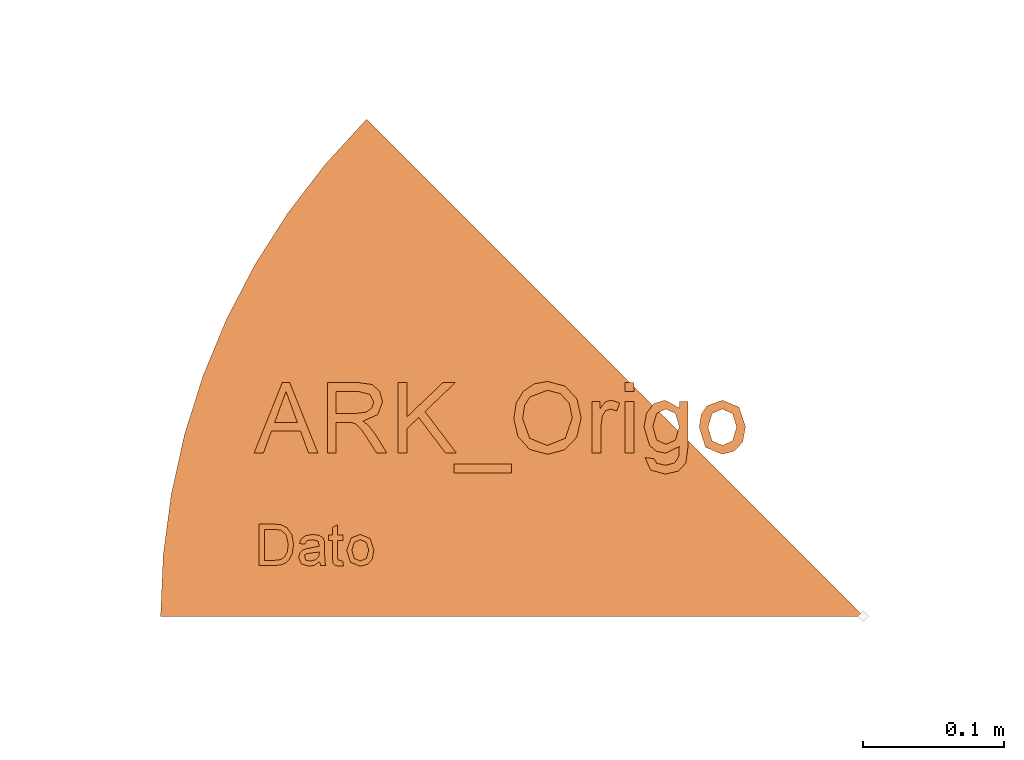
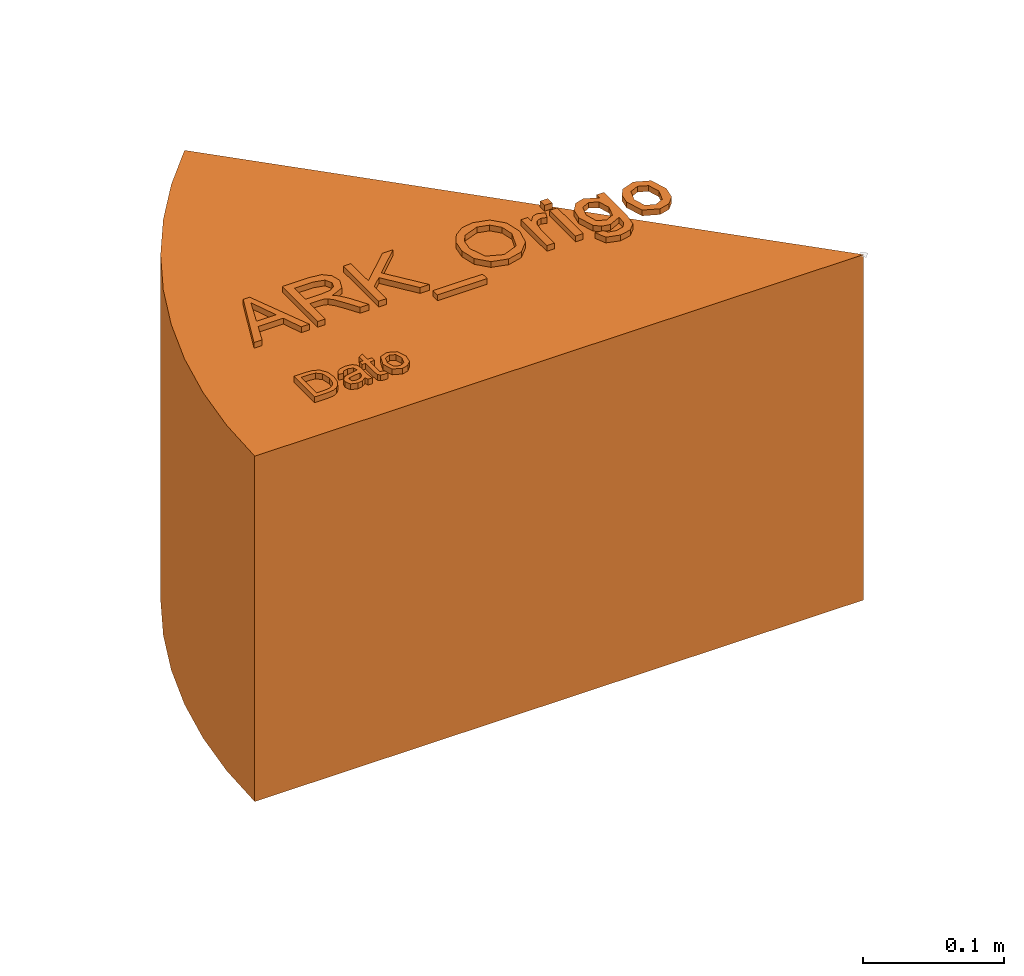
# One storey, part 5 of 5: 1 proxy.
"""IFC2X3 building model written with IfcOpenShell, lengths in millimetres."""

from ifc_helpers import new_model, entity, si_unit, converted_unit, derived_unit, direction, frame, frame_2d, origin, origin_2d_with_axis, place, context, subcontext, project, spatial, polyline, circle_curve, parameter, trimmed, segment, composite_curve, rectangle, outline, extrude, source, transform, mapped, material, material_list, type_object, type_shapes, element, save


model = new_model("IFC2X3")

# Units and contexts
model_context = context("Model", 3, precision=0.01, world=origin(), true_north=direction((6.123031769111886e-17, 1.0)))
body_context = subcontext(model_context, "Body", "Model", "MODEL_VIEW")
ifc_project = project(units=[si_unit("LENGTHUNIT", "METRE", prefix="MILLI"), si_unit("AREAUNIT", "SQUARE_METRE"), si_unit("VOLUMEUNIT", "CUBIC_METRE"), converted_unit("PLANEANGLEUNIT", "DEGREE", entity("IfcRatioMeasure", 0.017453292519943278), si_unit("PLANEANGLEUNIT", "RADIAN"), dimensions=[0, 0, 0, 0, 0, 0, 0]), si_unit("MASSUNIT", "GRAM", prefix="KILO"), derived_unit("MASSDENSITYUNIT", [(si_unit("MASSUNIT", "GRAM", prefix="KILO"), 1), (si_unit("LENGTHUNIT", "METRE"), -3)]), derived_unit("IONCONCENTRATIONUNIT", [(si_unit("MASSUNIT", "GRAM", prefix="KILO"), 1), (si_unit("LENGTHUNIT", "METRE"), -3)]), derived_unit("MOMENTOFINERTIAUNIT", [(si_unit("LENGTHUNIT", "METRE"), 4)]), si_unit("TIMEUNIT", "SECOND"), si_unit("FREQUENCYUNIT", "HERTZ"), si_unit("THERMODYNAMICTEMPERATUREUNIT", "DEGREE_CELSIUS"), derived_unit("THERMALTRANSMITTANCEUNIT", [(si_unit("MASSUNIT", "GRAM", prefix="KILO"), 1), (si_unit("THERMODYNAMICTEMPERATUREUNIT", "KELVIN"), -1), (si_unit("TIMEUNIT", "SECOND"), -3)]), derived_unit("THERMALCONDUCTANCEUNIT", [(si_unit("MASSUNIT", "GRAM", prefix="KILO"), 1), (si_unit("THERMODYNAMICTEMPERATUREUNIT", "KELVIN"), -1), (si_unit("TIMEUNIT", "SECOND"), -3), (si_unit("LENGTHUNIT", "METRE"), 1)]), derived_unit("VOLUMETRICFLOWRATEUNIT", [(si_unit("LENGTHUNIT", "METRE"), 3), (si_unit("TIMEUNIT", "SECOND"), -1)]), derived_unit("MASSFLOWRATEUNIT", [(si_unit("MASSUNIT", "GRAM", prefix="KILO"), 1), (si_unit("TIMEUNIT", "SECOND"), -1)]), derived_unit("ROTATIONALFREQUENCYUNIT", [(si_unit("TIMEUNIT", "SECOND"), -1)]), si_unit("ELECTRICCURRENTUNIT", "AMPERE"), si_unit("ELECTRICVOLTAGEUNIT", "VOLT"), si_unit("POWERUNIT", "WATT"), si_unit("FORCEUNIT", "NEWTON", prefix="KILO"), si_unit("ILLUMINANCEUNIT", "LUX"), si_unit("LUMINOUSFLUXUNIT", "LUMEN"), si_unit("LUMINOUSINTENSITYUNIT", "CANDELA"), derived_unit("USERDEFINED", [(si_unit("MASSUNIT", "GRAM", prefix="KILO"), -1), (si_unit("LENGTHUNIT", "METRE"), -2), (si_unit("TIMEUNIT", "SECOND"), 3), (si_unit("LUMINOUSFLUXUNIT", "LUMEN"), 1)]), derived_unit("USERDEFINED", [(si_unit("MASSUNIT", "GRAM", prefix="KILO"), 1), (si_unit("TIMEUNIT", "SECOND"), -3), (si_unit("LENGTHUNIT", "METRE"), 3), (si_unit("ELECTRICCURRENTUNIT", "AMPERE"), -2)]), derived_unit("SOUNDPOWERUNIT", [(si_unit("MASSUNIT", "GRAM", prefix="KILO"), 1), (si_unit("TIMEUNIT", "SECOND"), -3), (si_unit("LENGTHUNIT", "METRE"), 2)]), derived_unit("SOUNDPRESSUREUNIT", [(si_unit("MASSUNIT", "GRAM", prefix="KILO"), 1), (si_unit("LENGTHUNIT", "METRE"), -1), (si_unit("TIMEUNIT", "SECOND"), -2)]), derived_unit("LINEARVELOCITYUNIT", [(si_unit("LENGTHUNIT", "METRE"), 1), (si_unit("TIMEUNIT", "SECOND"), -1)]), si_unit("PRESSUREUNIT", "PASCAL"), derived_unit("USERDEFINED", [(si_unit("MASSUNIT", "GRAM", prefix="KILO"), 1), (si_unit("LENGTHUNIT", "METRE"), -2), (si_unit("TIMEUNIT", "SECOND"), -2)]), derived_unit("LINEARFORCEUNIT", [(si_unit("MASSUNIT", "GRAM", prefix="KILO"), 1), (si_unit("TIMEUNIT", "SECOND"), -2)]), derived_unit("PLANARFORCEUNIT", [(si_unit("MASSUNIT", "GRAM", prefix="KILO"), 1), (si_unit("LENGTHUNIT", "METRE"), -1), (si_unit("TIMEUNIT", "SECOND"), -2)]), derived_unit("SPECIFICHEATCAPACITYUNIT", [(si_unit("THERMODYNAMICTEMPERATUREUNIT", "KELVIN"), -1), (si_unit("LENGTHUNIT", "METRE"), 2), (si_unit("TIMEUNIT", "SECOND"), -2)]), derived_unit("HEATINGVALUEUNIT", [(si_unit("LENGTHUNIT", "METRE"), 2), (si_unit("TIMEUNIT", "SECOND"), -2)]), derived_unit("VAPORPERMEABILITYUNIT", [(si_unit("LENGTHUNIT", "METRE"), -1), (si_unit("TIMEUNIT", "SECOND"), 1)]), derived_unit("DYNAMICVISCOSITYUNIT", [(si_unit("MASSUNIT", "GRAM", prefix="KILO"), 1), (si_unit("TIMEUNIT", "SECOND"), -1), (si_unit("LENGTHUNIT", "METRE"), -1)]), derived_unit("THERMALEXPANSIONCOEFFICIENTUNIT", [(si_unit("THERMODYNAMICTEMPERATUREUNIT", "KELVIN"), -1)]), derived_unit("MODULUSOFELASTICITYUNIT", [(si_unit("MASSUNIT", "GRAM", prefix="KILO"), 1), (si_unit("LENGTHUNIT", "METRE"), -1), (si_unit("TIMEUNIT", "SECOND"), -2)]), derived_unit("ISOTHERMALMOISTURECAPACITYUNIT", [(si_unit("LENGTHUNIT", "METRE"), 3), (si_unit("MASSUNIT", "GRAM", prefix="KILO"), -1)]), derived_unit("MOISTUREDIFFUSIVITYUNIT", [(si_unit("TIMEUNIT", "SECOND"), -1), (si_unit("LENGTHUNIT", "METRE"), 2)])], contexts=[model_context])

# Site, building, storey
site_placement = place(None, origin())
site = spatial("IfcSite", under=ifc_project, at=site_placement, Name="IFCSITE", CompositionType="ELEMENT")
building_placement = place(site_placement, origin())
building = spatial("IfcBuilding", under=site, at=building_placement, CompositionType="ELEMENT")
storey_placement = place(building_placement, origin())
storey = spatial("IfcBuildingStorey", under=building, at=storey_placement, Name="Plan 01", CompositionType="ELEMENT", Elevation=0.0)

# Proxy
ifc_material_1 = material(Name="Grå")
ifc_material_2 = material(Name="<Unnamed>")
ifc_material_list = material_list([ifc_material_1, ifc_material_2])
building_element_proxy_type = type_object("IfcBuildingElementProxyType", Name="NV Project Base Point:ARCHITECTURE_ORIGIN", PredefinedType="NOTDEFINED", material=ifc_material_list)
shared_shape = source(origin(), body_context, "Body", "SweptSolid", [
    extrude(outline(composite_curve([segment(polyline([(-215.48220313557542, -117.85113019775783), (284.51779686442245, -117.85113019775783)]), True, "CONTINUOUS"), segment(polyline([(284.51779686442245, -117.85113019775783), (-69.03559372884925, 235.7022603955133)]), True, "CONTINUOUS"), segment(trimmed(circle_curve(frame_2d((284.5177968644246, -117.85113019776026), x_axis=(1.0, 0.0)), 500.00000000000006), [parameter(134.99999999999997)], [parameter(180.0000000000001)], True, "PARAMETER"), True, "CONTINUOUS")], self_intersect=False)), frame((-284.517796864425, 117.85113019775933, -300.0)), (0.0, 0.0, 1.0), 300.0),
    extrude(outline(polyline([(-15.301382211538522, -14.016225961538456), (-4.621093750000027, -14.016225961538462), (0.12770432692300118, -13.511418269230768), (3.6577524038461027, -12.029447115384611), (6.354867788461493, -9.350360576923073), (8.374098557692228, -5.048677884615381), (9.160156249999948, 0.9116586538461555), (7.999098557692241, 7.935697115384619), (4.501502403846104, 12.983774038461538), (0.16015624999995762, 15.096754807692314), (-5.111478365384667, 15.522235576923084), (-15.301382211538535, 15.522235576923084), (-15.301382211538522, -14.016225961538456)]), holes=[polyline([(-11.609074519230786, -10.32391826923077), (-11.609074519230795, 11.829927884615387), (-5.176382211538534, 11.829927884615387), (0.05919471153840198, 11.238581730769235), (3.8921274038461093, 7.964543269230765), (5.467848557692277, 0.9693509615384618), (4.663762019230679, -4.615985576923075), (2.4173677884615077, -8.283052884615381), (-0.3230168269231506, -9.790264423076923), (-5.075420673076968, -10.32391826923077), (-11.609074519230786, -10.32391826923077)])]), frame((-414.60998337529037, 50.146350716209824, 0.0)), (0.0, 0.0, 1.0), 4.999999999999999),
    extrude(outline(polyline([(9.857456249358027, 1.7929465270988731), (12.776481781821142, 1.7929465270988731), (13.944091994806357, 5.295777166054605), (10.76623099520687, 5.579698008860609), (4.621454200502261, 7.430314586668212), (0.2634403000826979, 8.88298588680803), (-2.8585487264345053, 9.733608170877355), (-5.593994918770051, 9.451967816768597), (-7.956581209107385, 7.575125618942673), (-9.994197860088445, 3.5375203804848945), (-10.829996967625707, -1.3187803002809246), (-9.842545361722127, -5.038257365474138), (-6.9269405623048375, -7.693886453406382), (-5.321476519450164, -4.3370070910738), (-7.149288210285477, -1.8501341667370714), (-6.641879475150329, 1.9183734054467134), (-4.338585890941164, 5.453130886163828), (-0.6578771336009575, 5.275252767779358), (-1.4788530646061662, -1.20133513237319), (-1.9623166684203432, -4.4077022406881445), (-1.6305055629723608, -7.243489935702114), (-0.2063403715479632, -9.675631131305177), (2.340965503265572, -11.269692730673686), (7.18130276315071, -10.910515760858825), (10.539322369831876, -6.378044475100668), (11.099182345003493, -2.395170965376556), (9.857456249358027, 1.7929465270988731)]), holes=[polyline([(3.344380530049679, 3.952569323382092), (6.361467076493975, 2.3197394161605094), (7.628278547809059, -0.6414751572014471), (7.285064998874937, -4.464714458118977), (5.505143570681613, -7.2731362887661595), (2.074148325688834, -6.756605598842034), (1.6055078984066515, -5.083867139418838), (2.04222148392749, -1.8809207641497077), (3.344380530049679, 3.952569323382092)])]), frame((-391.8064284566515, 47.683980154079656, 0.0), z_axis=(0.0, 0.0, 1.0), x_axis=(0.316227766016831, -0.9486832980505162, 0.0)), (0.0, 0.0, 1.0), 4.9999999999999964),
    extrude(outline(polyline([(-7.306806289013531, -8.217757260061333), (-8.68406818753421, -11.12916991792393), (-6.147608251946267, -12.278077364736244), (-3.010257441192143, -12.600667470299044), (-1.0627632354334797, -11.516616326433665), (0.5950878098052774, -7.642763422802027), (4.133956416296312, 3.8763726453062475), (6.781082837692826, 3.063131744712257), (7.8654040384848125, 6.592633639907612), (5.218277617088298, 7.405874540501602), (6.766400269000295, 12.445065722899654), (3.8743606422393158, 15.604347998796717), (1.688775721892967, 8.490195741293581), (-1.840726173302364, 9.57451694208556), (-2.925047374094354, 6.045015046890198), (0.604454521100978, 4.960693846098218), (-2.902646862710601, -6.455038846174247), (-3.6478760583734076, -8.217757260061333), (-7.306806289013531, -8.217757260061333)])), frame((-374.9442181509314, 49.210653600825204, 0.0), z_axis=(0.0, 0.0, -1.0), x_axis=(-0.9559067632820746, 0.2936703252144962, 0.0)), (0.0, 0.0, -1.0), 4.999999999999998),
    extrude(outline(polyline([(-3.9296781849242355, -9.735237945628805), (4.881713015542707, -9.735237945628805), (9.791790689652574, -3.933008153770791), (10.05172942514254, 1.2337723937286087), (7.570330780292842, 5.685788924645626), (1.6756317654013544, 8.82373705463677), (-6.845679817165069, 8.700876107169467), (-11.752906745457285, 2.943156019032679), (-11.442930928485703, -3.9838464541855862), (-3.9296781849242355, -9.735237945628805)]), holes=[polyline([(-2.8139092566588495, -6.215543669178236), (-7.738820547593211, -2.8496465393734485), (-8.235405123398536, 1.8205169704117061), (-5.125980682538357, 5.313298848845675), (0.7247457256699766, 5.251419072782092), (5.7561438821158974, 1.8515357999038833), (6.274289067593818, -2.810369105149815), (3.1571903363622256, -6.327196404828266), (-2.8139092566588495, -6.215543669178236)])]), frame((-357.13452263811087, 46.19262475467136, 0.0), z_axis=(0.0, 0.0, 1.0), x_axis=(0.3040480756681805, -0.9526566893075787, 0.0)), (0.0, 0.0, 1.0), 4.999999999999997),
    extrude(outline(polyline([(-22.721311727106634, -16.48111338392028), (-16.0871730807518, -16.48111338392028), (-10.348213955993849, -0.7848149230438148), (10.339016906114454, -0.7848149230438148), (16.09023876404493, -16.48111338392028), (22.724377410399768, -16.48111338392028), (2.6748086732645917, 33.74704169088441), (-2.6717429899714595, 33.74704169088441), (-22.721311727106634, -16.48111338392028)]), holes=[polyline([(-8.042820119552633, 5.493704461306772), (-3.125464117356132, 18.921397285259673), (0.0015328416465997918, 27.468522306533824), (3.5209372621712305, 17.842276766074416), (8.045885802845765, 5.493704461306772), (-8.042820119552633, 5.493704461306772)])]), frame((-410.7764423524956, 132.61123813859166, 0.0)), (0.0, 0.0, 1.0), 5.0),
    extrude(outline(polyline([(-23.57542722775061, -22.512764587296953), (-17.296907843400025, -22.512764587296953), (-17.296907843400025, -0.5379467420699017), (-9.718538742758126, -0.5379467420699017), (-6.0765069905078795, -0.758675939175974), (-3.0905314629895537, -1.954292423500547), (0.22653786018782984, -5.210048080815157), (4.947690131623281, -12.101704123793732), (11.483726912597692, -22.512764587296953), (18.78005315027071, -22.512764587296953), (10.404606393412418, -8.90113076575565), (5.315572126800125, -2.438670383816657), (1.7471167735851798, 0.24686818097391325), (12.262410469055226, 4.918969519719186), (15.665318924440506, 13.968866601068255), (13.611311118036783, 21.56562980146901), (8.117606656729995, 26.3603584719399), (-1.931703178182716, 27.715390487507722), (-23.57542722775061, 27.715390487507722), (-23.57542722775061, -22.512764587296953)]), holes=[polyline([(-17.296907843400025, 5.740572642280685), (-17.296907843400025, 21.436871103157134), (-1.6619230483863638, 21.436871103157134), (6.7319178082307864, 19.26636733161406), (9.38679954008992, 13.735874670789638), (7.99497932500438, 9.474574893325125), (3.923751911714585, 6.629620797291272), (-3.2438156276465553, 5.740572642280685), (-17.296907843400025, 5.740572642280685)])]), frame((-357.76892266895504, 138.64288934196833, 0.0)), (0.0, 0.0, 1.0), 4.999999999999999),
    extrude(outline(polyline([(-17.283300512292, -24.89437023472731), (-11.004781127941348, -24.89437023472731), (-11.004781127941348, -7.628441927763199), (-2.5434952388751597, 0.4404364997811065), (16.635419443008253, -24.89437023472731), (24.311890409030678, -24.89437023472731), (1.9078769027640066, 4.683342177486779), (23.527075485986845, 25.333784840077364), (14.746958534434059, 25.333784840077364), (-11.004781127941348, 0.7470048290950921), (-11.004781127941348, 25.333784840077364), (-17.283300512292, 25.333784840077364), (-17.283300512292, -24.89437023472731)])), frame((-313.832894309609, 141.02449498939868, 0.0)), (0.0, 0.0, 1.0), 5.0),
    extrude(rectangle(XDim=40.81037599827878, YDim=6.278519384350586, at=origin_2d_with_axis()), frame((-270.68544574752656, 105.14271583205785, 0.0)), (0.0, 0.0, 1.0), 5.0),
    extrude(outline(polyline([(-3.1974573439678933, -22.54955994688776), (9.629480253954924, -22.54955994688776), (20.600327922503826, -16.411497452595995), (26.754507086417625, -4.864986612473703), (26.462560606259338, 7.676675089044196), (19.541929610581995, 18.198061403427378), (6.9504993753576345, 24.239790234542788), (-6.801735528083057, 24.401842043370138), (-17.69989259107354, 18.19676890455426), (-23.722304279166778, 6.758411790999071), (-24.154243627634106, -3.0032738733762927), (-20.71518988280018, -11.659263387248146), (-13.648481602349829, -18.433408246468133), (-3.1974573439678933, -22.54955994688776)]), holes=[polyline([(-1.7331469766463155, -16.443877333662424), (-10.59699214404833, -13.0663242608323), (-15.818439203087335, -7.838619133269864), (-17.594675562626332, 5.389717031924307), (-13.160651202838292, 13.827070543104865), (-5.078585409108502, 18.369782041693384), (5.498140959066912, 18.131364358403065), (18.498258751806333, 10.033102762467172), (20.626878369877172, -3.496291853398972), (12.883971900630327, -14.646697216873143), (-1.7331469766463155, -16.443877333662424)])]), frame((-226.01726105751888, 142.5100936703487, 0.0), z_axis=(0.0, 0.0, 1.0), x_axis=(0.2237072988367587, -0.9746563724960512, 0.0)), (0.0, 0.0, 1.0), 4.999999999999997),
    extrude(outline(polyline([(-8.720218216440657, -27.140258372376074), (-2.4416988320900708, -27.140258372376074), (-2.4416988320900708, -7.752877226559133), (-1.423891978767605, -0.41976278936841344), (0.8385822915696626, 3.013802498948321), (4.3886435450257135, 4.252338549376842), (8.803227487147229, 2.9647515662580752), (10.900154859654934, 8.593346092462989), (4.597110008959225, 10.530857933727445), (0.6730353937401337, 9.31684734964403), (-3.2265137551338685, 4.289126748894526), (-3.2265137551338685, 9.746043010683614), (-8.720218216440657, 9.746043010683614), (-8.720218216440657, -27.140258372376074)])), frame((-184.26855014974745, 143.27038312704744, 0.0)), (0.0, 0.0, 1.0), 5.0),
    extrude(rectangle(XDim=6.278519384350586, YDim=36.8863013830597, at=frame_2d((0.0, 8.881784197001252e-15), x_axis=(1.0, 0.0))), frame((-166.30506098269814, 134.57327544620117, 0.0)), (0.0, 0.0, 1.0), 5.0),
    extrude(rectangle(XDim=6.278519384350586, YDim=6.278519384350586, at=origin_2d_with_axis()), frame((-166.30506098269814, 163.21902013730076, 0.0)), (0.0, 0.0, 1.0), 5.0),
    extrude(outline(polyline([(3.780575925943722, -17.747991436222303), (13.416014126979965, -17.747991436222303), (20.275110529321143, -9.345147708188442), (22.02078532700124, -0.10819974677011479), (18.990113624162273, 7.141532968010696), (8.4925030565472, 13.581452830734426), (-20.709256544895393, 26.28756197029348), (-23.214273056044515, 20.530418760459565), (-18.896415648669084, 18.651656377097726), (-27.97031951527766, 11.566899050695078), (-28.936352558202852, 3.2611779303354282), (-24.69707734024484, -4.253657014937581), (-16.491397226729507, -9.783250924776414), (-2.8399413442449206, -11.356826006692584), (2.8556043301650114, -8.570988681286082), (6.694855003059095, -3.1820895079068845), (6.2910858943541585, 7.692209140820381), (12.832763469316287, 4.377766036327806), (15.680091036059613, -0.20446400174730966), (14.56689342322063, -6.72768699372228), (10.853402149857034, -11.758406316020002), (7.005235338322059, -12.303975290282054), (3.780575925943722, -17.747991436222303)]), holes=[polyline([(-14.379935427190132, -3.8548663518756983), (-21.75764852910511, 2.3174620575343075), (-21.978331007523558, 9.601614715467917), (-16.396849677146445, 14.514954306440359), (-6.696219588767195, 13.343174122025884), (0.9794706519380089, 7.041191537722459), (1.0893827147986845, -0.3284959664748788), (-4.399696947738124, -5.275354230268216), (-14.379935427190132, -3.8548663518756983)])]), frame((-140.55185815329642, 123.53862713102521, 0.0), z_axis=(0.0, 0.0, 1.0), x_axis=(0.39898204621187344, -0.9169587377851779, 0.0)), (0.0, 0.0, 1.0), 4.999999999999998),
    extrude(outline(polyline([(-5.207979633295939, -15.29848871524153), (9.775194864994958, -15.298488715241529), (18.124449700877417, -5.4321895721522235), (18.566457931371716, 3.3535711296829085), (14.347007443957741, 10.923923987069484), (4.32347064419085, 16.259792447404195), (-10.166443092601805, 16.050875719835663), (-18.510850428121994, 6.260262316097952), (-17.98375752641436, -5.518636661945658), (-13.26754990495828, -11.300621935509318), (-5.207979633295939, -15.29848871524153)]), holes=[polyline([(-3.310690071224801, -9.313486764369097), (-11.685168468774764, -3.590006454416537), (-12.529576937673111, 4.351290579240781), (-7.242211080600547, 10.290529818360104), (2.7065532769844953, 10.185307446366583), (11.26210538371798, 4.404035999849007), (12.14317621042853, -3.523217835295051), (6.842760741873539, -9.503344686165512), (-3.310690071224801, -9.313486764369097)])]), frame((-100.70403703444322, 134.26333486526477, 0.0), z_axis=(0.0, 0.0, 1.0), x_axis=(0.30404807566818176, -0.9526566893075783, 0.0)), (0.0, 0.0, 1.0), 4.999999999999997),
])
type_shapes(building_element_proxy_type, [shared_shape])
proxy_placement = place(storey_placement, origin())
element("IfcBuildingElementProxy", 1, at=proxy_placement, inside=storey, type_object=building_element_proxy_type, material=ifc_material_list, Name="NV Project Base Point:ARCHITECTURE_ORIGIN", ObjectType="NV Project Base Point:ARCHITECTURE_ORIGIN", context=body_context, shape_type="MappedRepresentation", body=[
    mapped(shared_shape, transform((0.0, 0.0, 0.0), scale=1.0)),
])

save(model, "model.ifc")
